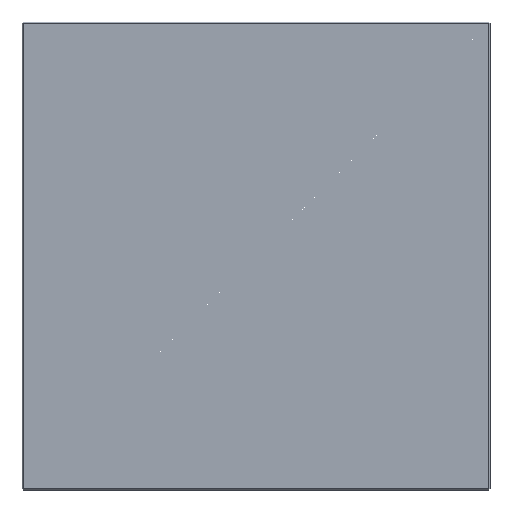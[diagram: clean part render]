
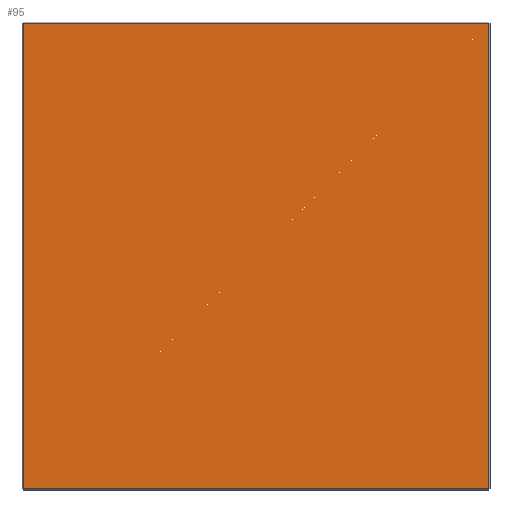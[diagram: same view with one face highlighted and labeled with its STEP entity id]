
A CAD part, front view. The second image highlights one B-rep face of the part: STEP entity #95.
In plain terms, the highlighted planar face has unit normal (0, -1, 0).
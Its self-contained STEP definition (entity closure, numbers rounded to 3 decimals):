
#23 = VERTEX_POINT ( 'NONE', #313 ) ;
#27 = VECTOR ( 'NONE', #126, 1000. ) ;
#41 = LINE ( 'NONE', #56, #210 ) ;
#56 = CARTESIAN_POINT ( 'NONE',  ( -172., 0., 0. ) ) ;
#74 = DIRECTION ( 'NONE',  ( 0., 0., -1. ) ) ;
#91 = VERTEX_POINT ( 'NONE', #492 ) ;
#95 = ADVANCED_FACE ( 'NONE', ( #455 ), #609, .F. ) ;
#96 = CARTESIAN_POINT ( 'NONE',  ( 172., 0., 172. ) ) ;
#105 = VERTEX_POINT ( 'NONE', #117 ) ;
#107 = ORIENTED_EDGE ( 'NONE', *, *, #646, .T. ) ;
#117 = CARTESIAN_POINT ( 'NONE',  ( 172., 0., -172. ) ) ;
#126 = DIRECTION ( 'NONE',  ( 1., 0., 0. ) ) ;
#139 = EDGE_LOOP ( 'NONE', ( #531, #601, #107, #187 ) ) ;
#166 = VECTOR ( 'NONE', #476, 1000. ) ;
#170 = EDGE_CURVE ( 'NONE', #91, #105, #557, .T. ) ;
#187 = ORIENTED_EDGE ( 'NONE', *, *, #170, .T. ) ;
#188 = CARTESIAN_POINT ( 'NONE',  ( 0., 0., 172. ) ) ;
#210 = VECTOR ( 'NONE', #74, 1000. ) ;
#276 = EDGE_CURVE ( 'NONE', #504, #23, #644, .T. ) ;
#282 = CARTESIAN_POINT ( 'NONE',  ( 0., 0., -172. ) ) ;
#313 = CARTESIAN_POINT ( 'NONE',  ( -172., 0., 172. ) ) ;
#337 = DIRECTION ( 'NONE',  ( -1., 0., 0. ) ) ;
#341 = EDGE_CURVE ( 'NONE', #105, #504, #524, .T. ) ;
#351 = CARTESIAN_POINT ( 'NONE',  ( 0., 0., 0. ) ) ;
#365 = AXIS2_PLACEMENT_3D ( 'NONE', #351, #447, #475 ) ;
#379 = VECTOR ( 'NONE', #337, 1000. ) ;
#447 = DIRECTION ( 'NONE',  ( 0., 1., 0. ) ) ;
#455 = FACE_OUTER_BOUND ( 'NONE', #139, .T. ) ;
#475 = DIRECTION ( 'NONE',  ( 0., 0., 1. ) ) ;
#476 = DIRECTION ( 'NONE',  ( 0., 0., 1. ) ) ;
#492 = CARTESIAN_POINT ( 'NONE',  ( -172., 0., -172. ) ) ;
#504 = VERTEX_POINT ( 'NONE', #96 ) ;
#524 = LINE ( 'NONE', #640, #166 ) ;
#531 = ORIENTED_EDGE ( 'NONE', *, *, #341, .T. ) ;
#557 = LINE ( 'NONE', #282, #27 ) ;
#601 = ORIENTED_EDGE ( 'NONE', *, *, #276, .T. ) ;
#609 = PLANE ( 'NONE',  #365 ) ;
#640 = CARTESIAN_POINT ( 'NONE',  ( 172., 0., 0. ) ) ;
#644 = LINE ( 'NONE', #188, #379 ) ;
#646 = EDGE_CURVE ( 'NONE', #23, #91, #41, .T. ) ;
